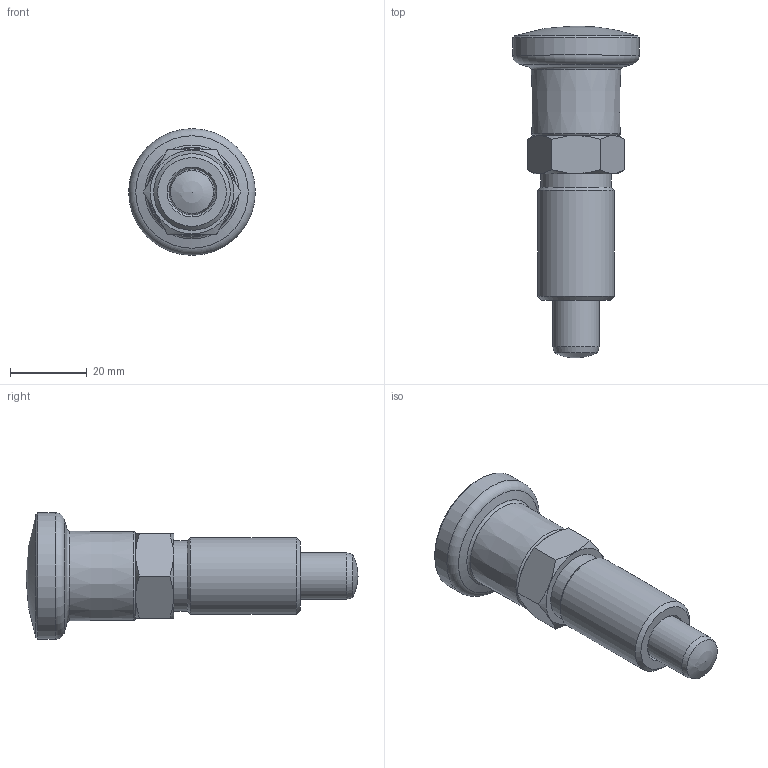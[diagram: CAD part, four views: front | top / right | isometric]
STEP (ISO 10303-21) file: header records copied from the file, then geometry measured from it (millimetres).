
FILE_DESCRIPTION( ( 'STEP AP203' ), '1' );
FILE_NAME( 'C:/Temp/Ganter_Step_05_03_2020/data/3_1/gn817/gn817_ni-rastbolzen_rot/Stainless steel-Indexing plunger GN 817-12-15-B-NI-RT (deactivated).stp', '2020-03-12T09:00:21', ( 'License CC BY-ND 4.0' ), ( 'CADENAS' ), ' ', 'PARTsolutions', ' ' );
FILE_SCHEMA( ( 'CONFIG_CONTROL_DESIGN' ) );
Length unit declared in the file: millimetre
Products named in the file (4): Stainless steel-Indexing plunger GN 817-12-15-B-NI-RT (deactivated); _Stainless steel-Indexing plunger GN 817-12-15-B-NI-RT (deactivated)-d; _Stainless steel-Indexing plunger GN 817-12-15-B-NI-RT-2; _Stainless Steel Indexing plunger GN 817-12-15-B-NI-RT-1
Assembly tree (3 placements, depth 2):
  Stainless steel-Indexing plunger GN 817-12-15-B-NI-RT (deactivated)
    _Stainless steel-Indexing plunger GN 817-12-15-B-NI-RT (deactivated)-d
    _Stainless steel-Indexing plunger GN 817-12-15-B-NI-RT-2
    _Stainless Steel Indexing plunger GN 817-12-15-B-NI-RT-1
Bounding box: 33 x 86.5 x 33 mm (x, y, z)
Volume: 30295.7 mm3; surface area: 10738.4 mm2
Topology: 2 solids, 2 shells, 36 faces, 76 edges, 47 vertices
Faces by surface type: plane 12, cone 10, cylinder 7, torus 5, sphere 2
Full cylindrical faces by diameter (mm): 9 x2, 12 x2, 18.3 x1, 20 x1, 33 x1
Entity records: 1043 total; most frequent: CARTESIAN_POINT 261, DIRECTION 142, ORIENTED_EDGE 92, AXIS2_PLACEMENT_3D 68, EDGE_LOOP 64, FACE_OUTER_BOUND 48, EDGE_CURVE 46, VERTEX_POINT 42
